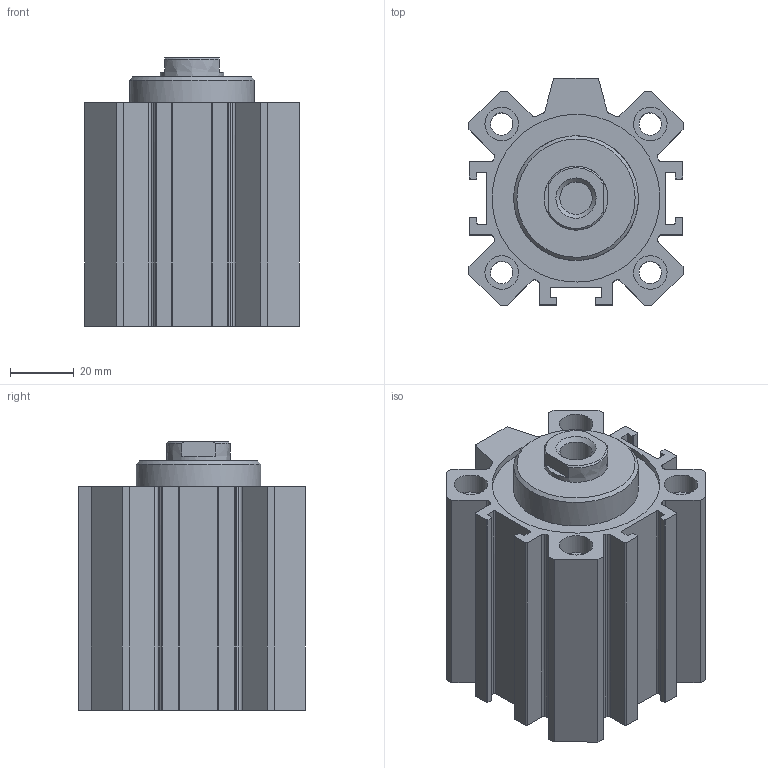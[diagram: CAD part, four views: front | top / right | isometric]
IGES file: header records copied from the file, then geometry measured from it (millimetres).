
Global section: file name: 1511_50_0030; native system: Autodesk Inventor 2014; preprocessor: unknown; author: A. Manieri; date: 20160824.134020; units: millimetre
Bounding box: 67 x 71 x 84 mm (x, y, z)
Volume: 200903.9 mm3; surface area: 64621.6 mm2
Topology: 2 solids, 2 shells, 165 faces, 443 edges, 300 vertices
Faces by surface type: bspline 165
